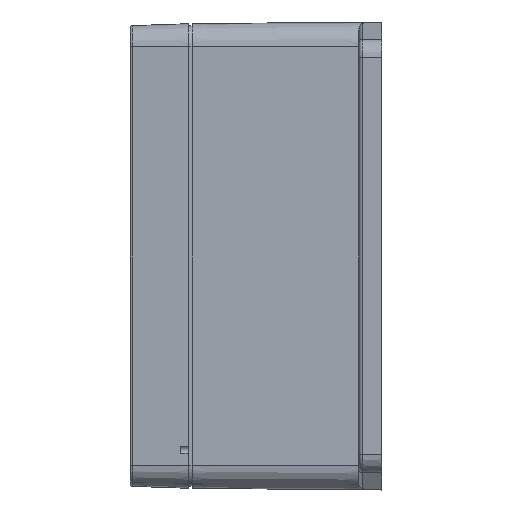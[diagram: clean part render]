
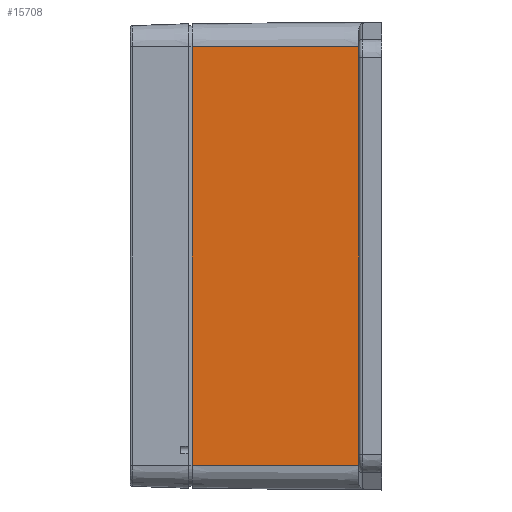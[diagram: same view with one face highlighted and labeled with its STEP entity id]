
A CAD part, left-side view. The second image highlights one B-rep face of the part: STEP entity #15708.
In plain terms, the highlighted planar face has unit normal (-1, 0.009, 0).
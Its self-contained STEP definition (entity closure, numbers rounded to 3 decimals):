
#361 = DIRECTION ( 'NONE',  ( 0.009, 1., 0. ) ) ;
#812 = ORIENTED_EDGE ( 'NONE', *, *, #4603, .T. ) ;
#1169 = CARTESIAN_POINT ( 'NONE',  ( -60.384, -44., 54. ) ) ;
#1554 = VECTOR ( 'NONE', #12040, 1000. ) ;
#2688 = LINE ( 'NONE', #5873, #1554 ) ;
#4322 = CARTESIAN_POINT ( 'NONE',  ( -60., 0., 54. ) ) ;
#4603 = EDGE_CURVE ( 'NONE', #9168, #14315, #16148, .T. ) ;
#5606 = AXIS2_PLACEMENT_3D ( 'NONE', #11764, #15041, #17618 ) ;
#5873 = CARTESIAN_POINT ( 'NONE',  ( -60.384, -44., 54. ) ) ;
#5895 = FACE_OUTER_BOUND ( 'NONE', #11858, .T. ) ;
#5992 = CARTESIAN_POINT ( 'NONE',  ( -60.009, -1., -54. ) ) ;
#7584 = EDGE_CURVE ( 'NONE', #11977, #13471, #18437, .T. ) ;
#8447 = CARTESIAN_POINT ( 'NONE',  ( -60.009, -1., 54. ) ) ;
#8523 = ORIENTED_EDGE ( 'NONE', *, *, #14197, .T. ) ;
#8585 = PLANE ( 'NONE',  #5606 ) ;
#9168 = VERTEX_POINT ( 'NONE', #1169 ) ;
#9302 = CARTESIAN_POINT ( 'NONE',  ( -60., 0., -54. ) ) ;
#11764 = CARTESIAN_POINT ( 'NONE',  ( -60., 0., 54. ) ) ;
#11858 = EDGE_LOOP ( 'NONE', ( #812, #8523, #14835, #16521 ) ) ;
#11977 = VERTEX_POINT ( 'NONE', #16251 ) ;
#11984 = DIRECTION ( 'NONE',  ( 0.009, 1., 0. ) ) ;
#12040 = DIRECTION ( 'NONE',  ( 0., 0., 1. ) ) ;
#13471 = VERTEX_POINT ( 'NONE', #5992 ) ;
#13802 = VECTOR ( 'NONE', #361, 1000. ) ;
#14197 = EDGE_CURVE ( 'NONE', #14315, #13471, #17090, .T. ) ;
#14315 = VERTEX_POINT ( 'NONE', #16484 ) ;
#14434 = VECTOR ( 'NONE', #14505, 1000. ) ;
#14505 = DIRECTION ( 'NONE',  ( 0., 0., -1. ) ) ;
#14835 = ORIENTED_EDGE ( 'NONE', *, *, #7584, .F. ) ;
#15041 = DIRECTION ( 'NONE',  ( -1., 0.009, 0. ) ) ;
#15708 = ADVANCED_FACE ( 'NONE', ( #5895 ), #8585, .T. ) ;
#16148 = LINE ( 'NONE', #4322, #18160 ) ;
#16251 = CARTESIAN_POINT ( 'NONE',  ( -60.384, -44., -54. ) ) ;
#16484 = CARTESIAN_POINT ( 'NONE',  ( -60.009, -1., 54. ) ) ;
#16521 = ORIENTED_EDGE ( 'NONE', *, *, #17330, .T. ) ;
#17090 = LINE ( 'NONE', #8447, #14434 ) ;
#17330 = EDGE_CURVE ( 'NONE', #11977, #9168, #2688, .T. ) ;
#17618 = DIRECTION ( 'NONE',  ( -0.009, -1., 0. ) ) ;
#18160 = VECTOR ( 'NONE', #11984, 1000. ) ;
#18437 = LINE ( 'NONE', #9302, #13802 ) ;
